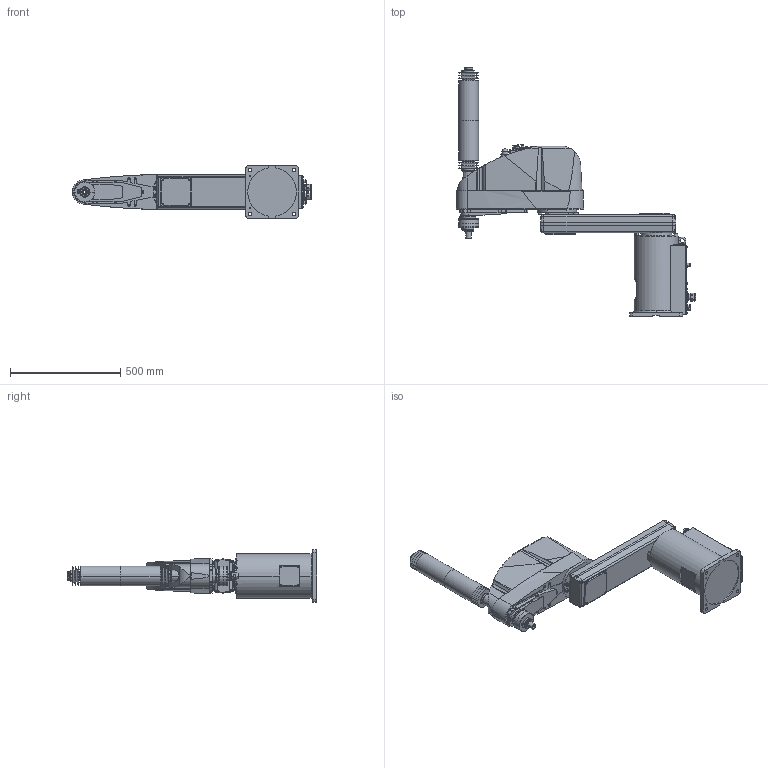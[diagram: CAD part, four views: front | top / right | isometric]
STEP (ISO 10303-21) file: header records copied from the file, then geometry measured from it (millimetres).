
FILE_DESCRIPTION( ( '' ), '1' );
FILE_NAME( '//expscmdclustefs.cadenas.external/client_exchange/iodir/jobs/output/wkb51508286_no0/STEP/G10_854C_2_03.stp', '2012-11-22T14:14:33', ( '' ), ( '' ), ' ', ' ', ' ' );
FILE_SCHEMA( ( 'CONFIG_CONTROL_DESIGN' ) );
Length unit declared in the file: millimetre
Products named in the file (8): 1; 2; 3; 4; 5; 6; 7; 8
Bounding box: 1084.5 x 1129.5 x 240 mm (x, y, z)
Volume: 43291907.4 mm3; surface area: 1737527 mm2
Topology: 8 solids, 9 shells, 2023 faces, 4917 edges, 3185 vertices
Faces by surface type: plane 1092, cylinder 655, cone 234, torus 41, sphere 1
Entity records: 61832 total; most frequent: CARTESIAN_POINT 12672, DIRECTION 10502, ORIENTED_EDGE 9826, EDGE_CURVE 4913, AXIS2_PLACEMENT_3D 3729, VERTEX_POINT 3185, LINE 3044, VECTOR 3044
